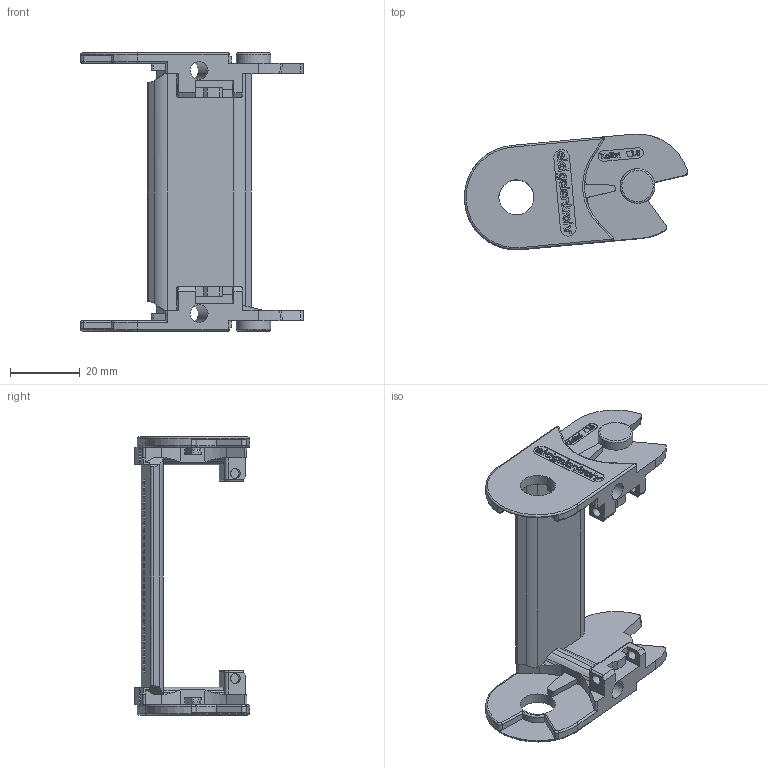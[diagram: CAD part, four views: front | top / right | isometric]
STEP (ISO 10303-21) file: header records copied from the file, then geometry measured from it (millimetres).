
FILE_DESCRIPTION((''),'2;1');
FILE_NAME('C:\Uebbing\PARAMETERKETTEN\KOLIBRI\Kol_30_080_2\Kol 30_080_2_ Lasche.stp','2011-11-02T12:17:38',('Uebbing'),(''),'Autodesk Inventor 10','Autodesk Inventor 10','');
FILE_SCHEMA(('AUTOMOTIVE_DESIGN { 1 0 10303 214 1 1 1 1 }'));
Length unit declared in the file: millimetre
Products named in the file (1): Kol 30_080_2_ Lasche
Bounding box: 64.22 x 33.18 x 80 mm (x, y, z)
Volume: 18850.7 mm3; surface area: 14569.2 mm2
Topology: 1 solids, 1 shells, 719 faces, 1923 edges, 1263 vertices
Faces by surface type: plane 377, bspline 200, cylinder 130, torus 9, sphere 3
Full cylindrical faces by diameter (mm): 1.166 x1, 2.048 x1, 2.8 x2, 5.1 x1, 10 x1, 10.1 x1
Entity records: 24406 total; most frequent: CARTESIAN_POINT 7184, ORIENTED_EDGE 3796, DIRECTION 3138, EDGE_CURVE 1898, VECTOR 1282, LINE 1282, VERTEX_POINT 1258, AXIS2_PLACEMENT_3D 928
